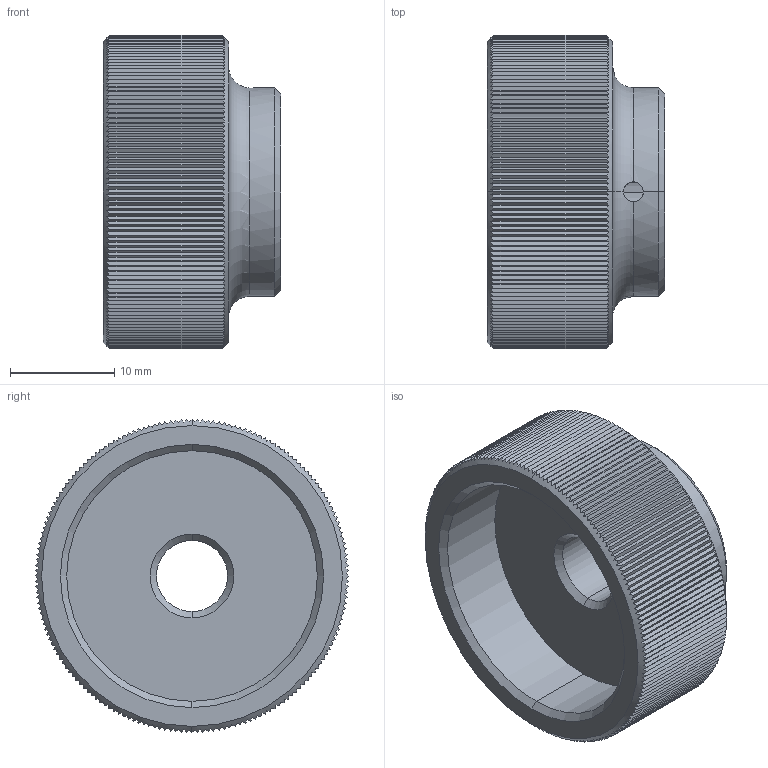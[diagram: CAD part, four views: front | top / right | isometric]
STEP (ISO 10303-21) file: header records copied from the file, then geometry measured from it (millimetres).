
FILE_DESCRIPTION (( 'STEP AP203' ), '1' );
FILE_NAME ('37160.W0108.step', '2011-09-15T08:13:30', ( 'Wixroyd' ), ( 'Wixroyd' ), 'SwSTEP 2.0', 'SolidWorks 2009', '' );
FILE_SCHEMA (( 'CONFIG_CONTROL_DESIGN' ));
Length unit declared in the file: millimetre
Products named in the file (1): 37160.W0108
Bounding box: 17 x 30 x 30 mm (x, y, z)
Volume: 6369.9 mm3; surface area: 3763.3 mm2
Topology: 1 solids, 1 shells, 384 faces, 1131 edges, 749 vertices
Faces by surface type: plane 364, cone 10, cylinder 8, torus 2
Entity records: 13384 total; most frequent: CARTESIAN_POINT 4495, ORIENTED_EDGE 2262, DIRECTION 1201, EDGE_CURVE 1131, VERTEX_POINT 749, B_SPLINE_CURVE_WITH_KNOTS 726, AXIS2_PLACEMENT_3D 411, EDGE_LOOP 388
